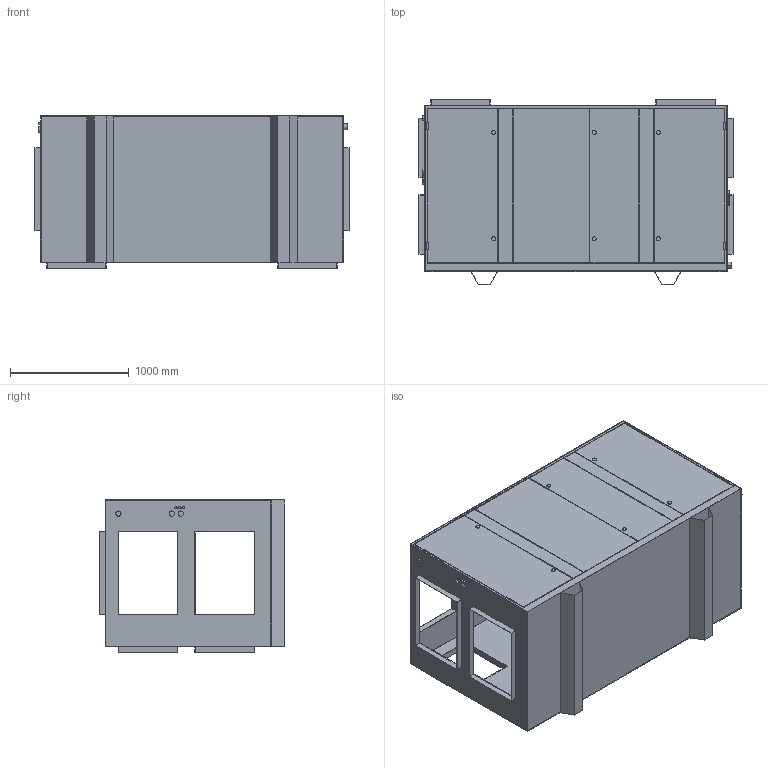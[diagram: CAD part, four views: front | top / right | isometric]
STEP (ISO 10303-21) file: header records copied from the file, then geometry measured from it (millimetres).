
FILE_DESCRIPTION (( 'STEP AP214' ), '1' );
FILE_NAME ('VPR_560_Dummy_V.STEP', '2022-05-24T11:55:23', ( '' ), ( '' ), 'SwSTEP 2.0', 'SolidWorks 2021', '' );
FILE_SCHEMA (( 'AUTOMOTIVE_DESIGN' ));
Length unit declared in the file: millimetre
Products named in the file (1): VPR_560_Dummy_V
Bounding box: 2645 x 1560 x 1290 mm (x, y, z)
Volume: 73719741.6 mm3; surface area: 32158016.9 mm2
Topology: 1 solids, 1 shells, 260 faces, 678 edges, 452 vertices
Faces by surface type: plane 214, cylinder 46
Entity records: 7964 total; most frequent: CARTESIAN_POINT 1391, ORIENTED_EDGE 1356, DIRECTION 1292, EDGE_CURVE 678, VECTOR 586, LINE 586, VERTEX_POINT 452, AXIS2_PLACEMENT_3D 353
